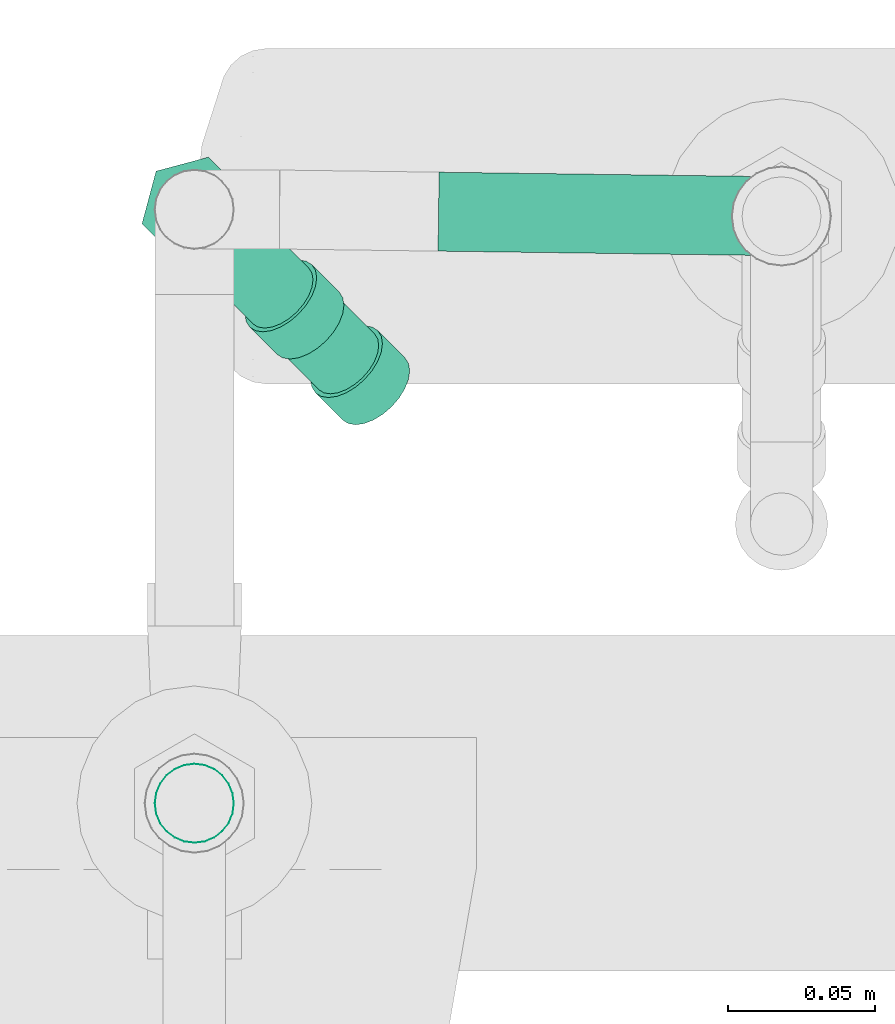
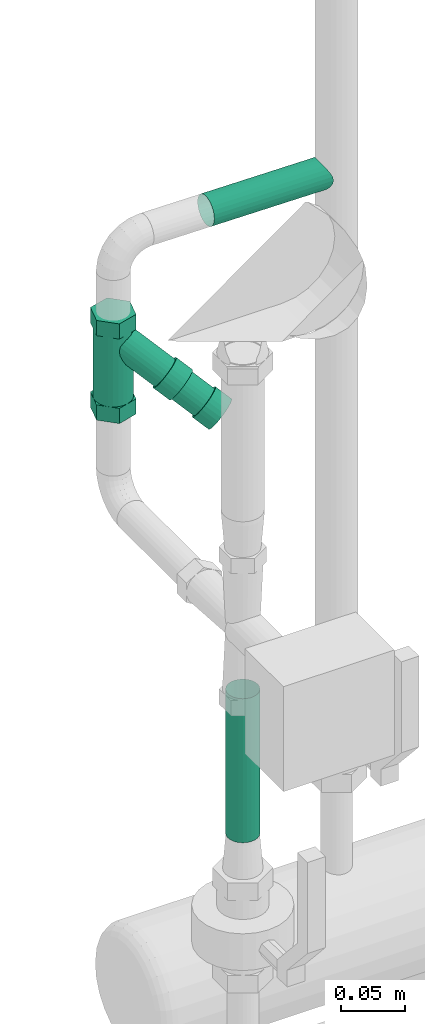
# One storey, part 82 of 374: 2 flow segments, 1 flow treatment device.
"""IFC2X3 building model written with IfcOpenShell, lengths in metres."""

from ifc_helpers import new_model, si_unit, direction, origin, place, context, subcontext, project, spatial, open_shell, surface_model, source, transform, mapped, element, save


model = new_model("IFC2X3")

# Units and contexts
model_context = context("Model", 3, precision=1e-05, world=origin(), true_north=direction((-0.4480736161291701, 0.8939966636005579)))
body_context = subcontext(model_context, "Body", "Model", "MODEL_VIEW")
ifc_project = project(units=[si_unit("LENGTHUNIT", "METRE"), si_unit("AREAUNIT", "SQUARE_METRE"), si_unit("VOLUMEUNIT", "CUBIC_METRE"), si_unit("PLANEANGLEUNIT", "RADIAN"), si_unit("THERMODYNAMICTEMPERATUREUNIT", "KELVIN"), si_unit("MASSUNIT", "GRAM", prefix="KILO"), si_unit("TIMEUNIT", "SECOND")], contexts=[model_context])

# Site, building, storey
site_placement = place(None, origin())
site = spatial("IfcSite", under=ifc_project, at=site_placement, Name="Site 1", CompositionType="ELEMENT")
building_placement = place(site_placement, origin())
building = spatial("IfcBuilding", under=site, at=building_placement, Name="Undefined", CompositionType="ELEMENT")
storey_placement = place(building_placement, origin())
storey = spatial("IfcBuildingStorey", under=building, at=storey_placement, Name="Rez de chauss\x8ee", CompositionType="ELEMENT", Elevation=0.0)

# Flow treatment device
shared_shape_1 = source(origin(), body_context, "Body", "SurfaceModel", [
    surface_model("IfcFaceBasedSurfaceModel", [(0.0, 0.0035111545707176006, 0.0), (0.0, 0.0, 0.0), (0.02585578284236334, 7.105427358e-15, 0.0), (0.024975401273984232, 0.003511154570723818, -3.552713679e-15), (0.0, -0.003391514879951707, -0.0009087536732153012), (0.028436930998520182, -0.003391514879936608, -0.0009087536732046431), (0.0, -0.006432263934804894, -0.0026643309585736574), (0.03254294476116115, -0.006432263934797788, -0.0026643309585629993), (0.0, -0.00891502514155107, -0.005147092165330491), (0.03789400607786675, -0.008915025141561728, -0.005147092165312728), (0.0, -0.010670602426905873, -0.008187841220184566), (0.04412544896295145, -0.010670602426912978, -0.008187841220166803), (0.0, -0.011579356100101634, -0.01157935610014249), (0.050812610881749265, -0.011579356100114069, -0.011579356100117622), (0.0, -0.011579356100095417, -0.015090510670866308), (0.04900045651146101, -0.011579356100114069, -0.015090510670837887), (0.0, -0.010670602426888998, -0.018482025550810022), (0.04731179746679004, -0.010670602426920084, -0.018482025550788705), (0.0, -0.008915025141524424, -0.021522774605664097), (0.04586171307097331, -0.008915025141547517, -0.021522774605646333), (0.0, -0.006432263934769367, -0.02400553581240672), (0.04474902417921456, -0.006432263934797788, -0.024005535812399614), (0.0, -0.0033915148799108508, -0.025761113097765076), (0.04404955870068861, -0.003391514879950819, -0.025761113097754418), (0.0, 4.2632564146e-14, -0.026669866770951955), (0.04381098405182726, 7.105427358e-15, -0.02666986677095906), (0.0, 0.0035111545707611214, -0.026669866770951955), (0.04404955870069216, 0.0035111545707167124, -0.026669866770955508), (0.0, 0.006902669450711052, -0.02576111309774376), (0.04474902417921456, 0.006902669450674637, -0.025761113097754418), (0.0, 0.00994341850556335, -0.024005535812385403), (0.04586171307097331, 0.009943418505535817, -0.02400553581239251), (0.0, 0.012426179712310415, -0.02152277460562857), (0.04731179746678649, 0.012426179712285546, -0.021522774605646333), (0.0, 0.014181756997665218, -0.018482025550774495), (0.04900045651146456, 0.014181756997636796, -0.018482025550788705), (0.0, 0.015090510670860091, -0.01509051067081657), (0.050812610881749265, 0.015090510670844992, -0.015090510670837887), (0.0, 0.015090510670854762, -0.011579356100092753), (0.044125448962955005, 0.015090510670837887, -0.011579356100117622), (0.0, 0.014181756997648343, -0.00818784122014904), (0.037894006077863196, 0.014181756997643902, -0.008187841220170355), (0.0, 0.012426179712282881, -0.005147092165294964), (0.03254294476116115, 0.012426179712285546, -0.005147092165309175), (0.0, 0.009943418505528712, -0.002664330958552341), (0.028436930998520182, 0.009943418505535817, -0.0026643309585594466), (0.0, 0.006902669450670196, -0.0009087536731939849), (0.025855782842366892, 0.006902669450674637, -0.0009087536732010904), (0.07112295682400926, -0.015791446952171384, -0.02403705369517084), (0.05598895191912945, -0.01717462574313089, -0.034543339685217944), (0.047672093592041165, -0.015624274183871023, -0.022767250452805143), (0.06280609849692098, -0.014241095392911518, -0.01226096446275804), (0.07868995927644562, 0.000763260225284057, -0.020872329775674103), (0.07037310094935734, 0.002313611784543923, -0.00909624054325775), (0.07112295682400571, 0.0159347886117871, -0.028213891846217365), (0.06280609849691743, 0.017485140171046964, -0.01643780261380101), (0.055988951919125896, 0.014551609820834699, -0.03872017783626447), (0.04767209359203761, 0.016101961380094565, -0.026944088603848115), (0.048421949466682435, -0.002003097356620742, -0.04188490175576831), (0.04010509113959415, -0.00045274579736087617, -0.030108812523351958), (0.05523909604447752, 0.016793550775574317, -0.021690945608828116), (0.05184690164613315, 0.01594299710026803, -0.023974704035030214), (0.013990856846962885, 0.0229997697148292, 0.029626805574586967), (0.017383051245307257, 0.023850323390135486, 0.031910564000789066), (0.048685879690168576, 0.014069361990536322, -0.025960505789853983), (0.010829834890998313, 0.02112613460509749, 0.0276410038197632), (0.04597144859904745, 0.011300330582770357, -0.02751302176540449), (0.008115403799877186, 0.018357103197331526, 0.026088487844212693), (0.04388859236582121, 0.007824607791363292, -0.028526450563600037), (0.006032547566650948, 0.01488138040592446, 0.025075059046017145), (0.042579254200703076, 0.0038790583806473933, -0.028931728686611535), (0.004723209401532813, 0.010935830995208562, 0.024669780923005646), (0.04213266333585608, -0.0002674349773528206, -0.028701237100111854), (0.004276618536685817, 0.006789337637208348, 0.024900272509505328), (0.04257925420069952, -0.004332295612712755, -0.02785068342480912), (0.00472320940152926, 0.0027244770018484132, 0.025750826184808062), (0.04388859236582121, -0.008038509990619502, -0.026438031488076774), (0.006032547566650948, -0.0009817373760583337, 0.027163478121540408), (0.04597144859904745, -0.011133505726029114, -0.024559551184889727), (0.008115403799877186, -0.004076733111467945, 0.029041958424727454), (0.048685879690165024, -0.01340636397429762, -0.022343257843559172), (0.01082983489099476, -0.006349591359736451, 0.03125825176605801), (0.05184690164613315, -0.014702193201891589, -0.019940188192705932), (0.013990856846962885, -0.00764542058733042, 0.03366132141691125), (0.05523909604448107, -0.01493268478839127, -0.01751410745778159), (0.01738305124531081, -0.007875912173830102, 0.03608740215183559), (0.058631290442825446, -0.014082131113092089, -0.015230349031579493), (0.020775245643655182, -0.00702535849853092, 0.03837116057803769), (0.06179231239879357, -0.01220849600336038, -0.013244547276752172), (0.023936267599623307, -0.005151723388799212, 0.04035696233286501), (0.0645067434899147, -0.00943946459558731, -0.011692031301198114), (0.026650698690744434, -0.0023826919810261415, 0.04190947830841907), (0.06658959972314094, -0.005963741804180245, -0.010678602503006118), (0.028733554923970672, 0.0010930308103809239, 0.04292290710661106), (0.06789893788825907, -0.0020181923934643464, -0.010273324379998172), (0.030042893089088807, 0.005038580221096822, 0.04332818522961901), (0.06834552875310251, 0.0021283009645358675, -0.010503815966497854), (0.03048948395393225, 0.009185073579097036, 0.04309769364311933), (0.06789893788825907, 0.006193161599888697, -0.011354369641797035), (0.030042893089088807, 0.013249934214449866, 0.042247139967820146), (0.06658959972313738, 0.00989937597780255, -0.01276702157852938), (0.02873355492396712, 0.016956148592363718, 0.0408344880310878), (0.0645067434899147, 0.012994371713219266, -0.014645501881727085), (0.026650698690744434, 0.020051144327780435, 0.038956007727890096), (0.06179231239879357, 0.015267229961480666, -0.016861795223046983), (0.023936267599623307, 0.022324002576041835, 0.0367397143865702), (0.058631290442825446, 0.01656305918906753, -0.019264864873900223), (0.020775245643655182, 0.0236198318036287, 0.03433664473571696), (0.024950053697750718, -0.007184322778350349, 0.04134054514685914), (0.009816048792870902, -0.008567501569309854, 0.03083425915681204), (0.0014991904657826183, -0.007017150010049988, 0.04261034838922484), (0.016633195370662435, -0.005633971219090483, 0.05311663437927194), (0.032517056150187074, 0.009370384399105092, 0.04450526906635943), (0.02420019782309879, 0.010920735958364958, 0.05628135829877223), (0.024950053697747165, 0.024541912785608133, 0.03716370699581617), (0.016633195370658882, 0.026092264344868, 0.04893979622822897), (0.009816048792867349, 0.023158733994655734, 0.026657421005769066), (0.0014991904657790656, 0.0247090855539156, 0.03843351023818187), (0.002249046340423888, 0.0066040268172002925, 0.023492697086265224), (-0.006067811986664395, 0.008154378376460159, 0.035268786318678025), (0.0, 0.016627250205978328, -0.015292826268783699), (3.552713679e-15, 0.015613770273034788, -0.01907518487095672), (-0.015999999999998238, 0.015613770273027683, -0.01907518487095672), (-0.01600000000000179, 0.016627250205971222, -0.015292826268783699), (3.552713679e-15, 0.01365587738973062, -0.022466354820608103), (-0.015999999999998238, 0.013655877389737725, -0.022466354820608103), (0.0, 0.010886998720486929, -0.02523523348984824), (-0.01600000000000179, 0.01088699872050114, -0.02523523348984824), (0.0, 0.007495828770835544, -0.027193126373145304), (-0.015999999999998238, 0.00749582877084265, -0.027193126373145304), (3.552713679e-15, 0.003713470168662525, -0.028206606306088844), (-0.015999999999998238, 0.0037134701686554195, -0.028206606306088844), (0.0, -0.00020231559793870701, -0.028206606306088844), (-0.015999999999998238, -0.00020231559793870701, -0.02820660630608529), (3.552713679e-15, -0.003984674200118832, -0.027193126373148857), (-0.016000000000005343, -0.003984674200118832, -0.027193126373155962), (0.0, -0.0073758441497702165, -0.02523523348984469), (-0.01600000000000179, -0.007375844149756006, -0.02523523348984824), (0.0, -0.010144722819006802, -0.022466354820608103), (-0.01600000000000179, -0.010144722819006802, -0.022466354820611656), (0.0, -0.012102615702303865, -0.019075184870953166), (-0.015999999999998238, -0.01210261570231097, -0.019075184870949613), (-3.552713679e-15, -0.013116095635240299, -0.015292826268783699), (-0.01600000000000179, -0.013116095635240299, -0.015292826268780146), (3.552713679e-15, -0.013116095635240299, -0.011377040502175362), (-0.015999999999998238, -0.013116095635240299, -0.011377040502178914), (-3.552713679e-15, -0.01210261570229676, -0.007594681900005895), (-0.01600000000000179, -0.012102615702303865, -0.007594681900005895), (3.552713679e-15, -0.010144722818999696, -0.004203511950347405), (-0.01600000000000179, -0.010144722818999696, -0.004203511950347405), (3.552713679e-15, -0.007375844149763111, -0.0014346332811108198), (-0.01600000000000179, -0.007375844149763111, -0.0014346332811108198), (-3.552713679e-15, -0.003984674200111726, 0.0005232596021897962), (-0.01600000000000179, -0.003984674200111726, 0.0005232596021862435), (-3.552713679e-15, -0.0002023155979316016, 0.0015367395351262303), (-0.016000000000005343, -0.0002023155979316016, 0.0015367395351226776), (0.0, 0.0037134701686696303, 0.001536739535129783), (-0.01600000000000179, 0.003713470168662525, 0.001536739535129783), (-3.552713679e-15, 0.00749582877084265, 0.0005232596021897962), (-0.01600000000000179, 0.00749582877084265, 0.0005232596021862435), (0.0, 0.01088699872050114, -0.0014346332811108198), (-0.015999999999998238, 0.010886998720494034, -0.0014346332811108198), (0.0, 0.013655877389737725, -0.004203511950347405), (-0.01600000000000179, 0.013655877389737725, -0.004203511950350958), (-3.552713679e-15, 0.015613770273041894, -0.0075946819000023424), (-0.01600000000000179, 0.015613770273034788, -0.007594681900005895), (0.0, 0.016627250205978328, -0.011377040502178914), (-0.01600000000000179, 0.016627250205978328, -0.011377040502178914), (3.552713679e-15, 0.0017555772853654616, -0.01333493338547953), (-0.015999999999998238, 0.0017555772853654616, -0.01333493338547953), (-0.01600000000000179, 0.015090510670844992, -0.01509051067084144), (-0.01600000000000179, 0.014181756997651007, -0.018482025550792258), (-0.03865786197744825, 0.014181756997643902, -0.018482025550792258), (-0.03865786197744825, 0.015090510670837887, -0.01509051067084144), (-0.015999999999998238, 0.012426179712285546, -0.021522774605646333), (-0.038657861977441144, 0.012426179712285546, -0.021522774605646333), (-0.015999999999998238, 0.009943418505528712, -0.02400553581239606), (-0.038657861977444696, 0.009943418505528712, -0.02400553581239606), (-0.01600000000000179, 0.006902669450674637, -0.02576111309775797), (-0.03865786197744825, 0.006902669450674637, -0.025761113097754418), (-0.015999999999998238, 0.003511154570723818, -0.026669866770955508), (-0.038657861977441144, 0.0035111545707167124, -0.02666986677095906), (-0.01600000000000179, 0.0, -0.02666986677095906), (-0.038657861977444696, 7.105427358e-15, -0.026669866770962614), (-0.016000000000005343, -0.0033915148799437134, -0.02576111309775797), (-0.03865786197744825, -0.003391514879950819, -0.02576111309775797), (-0.01600000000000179, -0.006432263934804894, -0.02400553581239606), (-0.03865786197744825, -0.006432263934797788, -0.024005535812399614), (-0.016000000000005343, -0.008915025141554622, -0.021522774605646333), (-0.03865786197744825, -0.008915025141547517, -0.021522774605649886), (-0.015999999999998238, -0.010670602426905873, -0.018482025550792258), (-0.03865786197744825, -0.010670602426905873, -0.018482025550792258), (-0.015999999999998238, -0.011579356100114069, -0.015090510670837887), (-0.03865786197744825, -0.011579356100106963, -0.01509051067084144), (-0.015999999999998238, -0.011579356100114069, -0.011579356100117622), (-0.038657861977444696, -0.011579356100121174, -0.011579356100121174), (-0.01600000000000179, -0.010670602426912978, -0.008187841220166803), (-0.038657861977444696, -0.010670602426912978, -0.008187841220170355), (-0.01600000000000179, -0.008915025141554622, -0.0051470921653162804), (-0.0386578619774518, -0.008915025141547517, -0.0051470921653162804), (-0.01600000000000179, -0.006432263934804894, -0.0026643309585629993), (-0.038657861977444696, -0.006432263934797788, -0.0026643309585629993), (-0.015999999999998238, -0.003391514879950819, -0.0009087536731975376), (-0.038657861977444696, -0.0033915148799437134, -0.0009087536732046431), (-0.015999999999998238, 0.0, 0.0), (-0.03865786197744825, 7.105427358e-15, -3.552713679e-15), (-0.015999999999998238, 0.003511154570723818, 0.0), (-0.03865786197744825, 0.0035111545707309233, -7.105427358e-15), (-0.01600000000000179, 0.006902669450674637, -0.0009087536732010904), (-0.038657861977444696, 0.006902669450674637, -0.0009087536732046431), (-0.01600000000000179, 0.009943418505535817, -0.0026643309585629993), (-0.038657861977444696, 0.009943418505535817, -0.0026643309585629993), (-0.01600000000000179, 0.012426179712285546, -0.0051470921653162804), (-0.038657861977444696, 0.012426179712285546, -0.005147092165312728), (-0.015999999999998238, 0.014181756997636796, -0.008187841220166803), (-0.038657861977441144, 0.014181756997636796, -0.008187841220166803), (-0.01600000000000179, 0.015090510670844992, -0.011579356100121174), (-0.038657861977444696, 0.015090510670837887, -0.011579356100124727), (-0.03865786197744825, 0.016627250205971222, -0.015292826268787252), (-0.03865786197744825, 0.015613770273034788, -0.01907518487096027), (-0.054657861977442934, 0.015613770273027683, -0.01907518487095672), (-0.05465786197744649, 0.016627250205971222, -0.015292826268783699), (-0.03865786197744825, 0.01365587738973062, -0.022466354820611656), (-0.054657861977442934, 0.01365587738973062, -0.022466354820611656), (-0.038657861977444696, 0.010886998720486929, -0.02523523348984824), (-0.05465786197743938, 0.010886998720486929, -0.02523523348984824), (-0.03865786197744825, 0.007495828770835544, -0.02719312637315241), (-0.054657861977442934, 0.007495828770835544, -0.027193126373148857), (-0.03865786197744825, 0.003713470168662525, -0.02820660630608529), (-0.05465786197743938, 0.003713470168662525, -0.02820660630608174), (-0.03865786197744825, -0.00020231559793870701, -0.02820660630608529), (-0.054657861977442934, -0.00020231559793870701, -0.02820660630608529), (-0.0386578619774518, -0.003984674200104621, -0.02719312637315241), (-0.054657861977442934, -0.003984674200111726, -0.027193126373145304), (-0.038657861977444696, -0.0073758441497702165, -0.025235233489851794), (-0.05465786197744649, -0.0073758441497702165, -0.02523523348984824), (-0.038657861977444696, -0.010144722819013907, -0.022466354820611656), (-0.054657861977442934, -0.010144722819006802, -0.022466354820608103), (-0.03865786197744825, -0.01210261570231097, -0.019075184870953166), (-0.054657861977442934, -0.01210261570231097, -0.019075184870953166), (-0.03865786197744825, -0.013116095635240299, -0.015292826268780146), (-0.054657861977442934, -0.013116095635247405, -0.015292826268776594), (-0.03865786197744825, -0.013116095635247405, -0.011377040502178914), (-0.054657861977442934, -0.01311609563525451, -0.011377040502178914), (-0.03865786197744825, -0.012102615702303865, -0.007594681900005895), (-0.054657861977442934, -0.012102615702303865, -0.0075946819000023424), (-0.03865786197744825, -0.010144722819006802, -0.004203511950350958), (-0.05465786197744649, -0.010144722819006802, -0.004203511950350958), (-0.03865786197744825, -0.007375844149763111, -0.0014346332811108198), (-0.054657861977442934, -0.0073758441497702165, -0.0014346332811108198), (-0.038657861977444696, -0.003984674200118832, 0.0005232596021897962), (-0.05465786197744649, -0.003984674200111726, 0.0005232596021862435), (-0.03865786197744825, -0.0002023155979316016, 0.0015367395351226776), (-0.05465786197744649, -0.00020231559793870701, 0.0015367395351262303), (-0.038657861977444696, 0.003713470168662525, 0.0015367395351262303), (-0.054657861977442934, 0.003713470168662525, 0.001536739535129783), (-0.038657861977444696, 0.00749582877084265, 0.0005232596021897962), (-0.054657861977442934, 0.007495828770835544, 0.0005232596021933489), (-0.038657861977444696, 0.010886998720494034, -0.0014346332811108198), (-0.054657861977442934, 0.010886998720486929, -0.0014346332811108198), (-0.038657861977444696, 0.01365587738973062, -0.004203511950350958), (-0.054657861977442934, 0.01365587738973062, -0.004203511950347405), (-0.03865786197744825, 0.015613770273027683, -0.007594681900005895), (-0.05465786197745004, 0.015613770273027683, -0.007594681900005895), (-0.038657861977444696, 0.016627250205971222, -0.011377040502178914), (-0.054657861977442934, 0.016627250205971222, -0.011377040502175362), (-0.03865786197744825, 0.0017555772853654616, -0.013334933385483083), (-0.05465786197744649, 0.0017555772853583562, -0.013334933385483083)], [open_shell([[[0, 1, 2, 3]], [[1, 4, 5, 2]], [[4, 6, 7, 5]], [[6, 8, 9, 7]], [[8, 10, 11, 9]], [[10, 12, 13, 11]], [[12, 14, 15, 13]], [[14, 16, 17, 15]], [[16, 18, 19, 17]], [[18, 20, 21, 19]], [[20, 22, 23, 21]], [[22, 24, 25, 23]], [[24, 26, 27, 25]], [[26, 28, 29, 27]], [[28, 30, 31, 29]], [[30, 32, 33, 31]], [[32, 34, 35, 33]], [[34, 36, 37, 35]], [[36, 38, 39, 37]], [[38, 40, 41, 39]], [[40, 42, 43, 41]], [[42, 44, 45, 43]], [[44, 46, 47, 45]], [[46, 0, 3, 47]], [[48, 49, 50, 51]], [[52, 48, 51, 53]], [[54, 52, 53, 55]], [[56, 54, 55, 57]], [[58, 56, 57, 59]], [[49, 58, 59, 50]], [[49, 48, 52]], [[49, 52, 54]], [[49, 54, 56]], [[49, 56, 58]], [[50, 53, 51]], [[50, 55, 53]], [[50, 57, 55]], [[50, 59, 57]], [[60, 61, 62, 63]], [[61, 64, 65, 62]], [[64, 66, 67, 65]], [[66, 68, 69, 67]], [[68, 70, 71, 69]], [[70, 72, 73, 71]], [[72, 74, 75, 73]], [[74, 76, 77, 75]], [[76, 78, 79, 77]], [[78, 80, 81, 79]], [[80, 82, 83, 81]], [[82, 84, 85, 83]], [[84, 86, 87, 85]], [[86, 88, 89, 87]], [[88, 90, 91, 89]], [[90, 92, 93, 91]], [[92, 94, 95, 93]], [[94, 96, 97, 95]], [[96, 98, 99, 97]], [[98, 100, 101, 99]], [[100, 102, 103, 101]], [[102, 104, 105, 103]], [[104, 106, 107, 105]], [[106, 60, 63, 107]], [[108, 109, 110, 111]], [[112, 108, 111, 113]], [[114, 112, 113, 115]], [[116, 114, 115, 117]], [[118, 116, 117, 119]], [[109, 118, 119, 110]], [[109, 108, 112]], [[109, 112, 114]], [[109, 114, 116]], [[109, 116, 118]], [[110, 113, 111]], [[110, 115, 113]], [[110, 117, 115]], [[110, 119, 117]], [[120, 121, 122, 123]], [[121, 124, 125, 122]], [[124, 126, 127, 125]], [[126, 128, 129, 127]], [[128, 130, 131, 129]], [[130, 132, 133, 131]], [[132, 134, 135, 133]], [[134, 136, 137, 135]], [[136, 138, 139, 137]], [[138, 140, 141, 139]], [[140, 142, 143, 141]], [[142, 144, 145, 143]], [[144, 146, 147, 145]], [[146, 148, 149, 147]], [[148, 150, 151, 149]], [[150, 152, 153, 151]], [[152, 154, 155, 153]], [[154, 156, 157, 155]], [[156, 158, 159, 157]], [[158, 160, 161, 159]], [[160, 162, 163, 161]], [[162, 164, 165, 163]], [[164, 166, 167, 165]], [[166, 120, 123, 167]], [[168, 121, 120]], [[168, 124, 121]], [[168, 126, 124]], [[168, 128, 126]], [[168, 130, 128]], [[168, 132, 130]], [[168, 134, 132]], [[168, 136, 134]], [[168, 138, 136]], [[168, 140, 138]], [[168, 142, 140]], [[168, 144, 142]], [[168, 146, 144]], [[168, 148, 146]], [[168, 150, 148]], [[168, 152, 150]], [[168, 154, 152]], [[168, 156, 154]], [[168, 158, 156]], [[168, 160, 158]], [[168, 162, 160]], [[168, 164, 162]], [[168, 166, 164]], [[168, 120, 166]], [[169, 167, 123]], [[169, 165, 167]], [[169, 163, 165]], [[169, 161, 163]], [[169, 159, 161]], [[169, 157, 159]], [[169, 155, 157]], [[169, 153, 155]], [[169, 151, 153]], [[169, 149, 151]], [[169, 147, 149]], [[169, 145, 147]], [[169, 143, 145]], [[169, 141, 143]], [[169, 139, 141]], [[169, 137, 139]], [[169, 135, 137]], [[169, 133, 135]], [[169, 131, 133]], [[169, 129, 131]], [[169, 127, 129]], [[169, 125, 127]], [[169, 122, 125]], [[169, 123, 122]], [[170, 171, 172, 173]], [[171, 174, 175, 172]], [[174, 176, 177, 175]], [[176, 178, 179, 177]], [[178, 180, 181, 179]], [[180, 182, 183, 181]], [[182, 184, 185, 183]], [[184, 186, 187, 185]], [[186, 188, 189, 187]], [[188, 190, 191, 189]], [[190, 192, 193, 191]], [[192, 194, 195, 193]], [[194, 196, 197, 195]], [[196, 198, 199, 197]], [[198, 200, 201, 199]], [[200, 202, 203, 201]], [[202, 204, 205, 203]], [[204, 206, 207, 205]], [[206, 208, 209, 207]], [[208, 210, 211, 209]], [[210, 212, 213, 211]], [[212, 214, 215, 213]], [[214, 216, 217, 215]], [[216, 170, 173, 217]], [[218, 219, 220, 221]], [[219, 222, 223, 220]], [[222, 224, 225, 223]], [[224, 226, 227, 225]], [[226, 228, 229, 227]], [[228, 230, 231, 229]], [[230, 232, 233, 231]], [[232, 234, 235, 233]], [[234, 236, 237, 235]], [[236, 238, 239, 237]], [[238, 240, 241, 239]], [[240, 242, 243, 241]], [[242, 244, 245, 243]], [[244, 246, 247, 245]], [[246, 248, 249, 247]], [[248, 250, 251, 249]], [[250, 252, 253, 251]], [[252, 254, 255, 253]], [[254, 256, 257, 255]], [[256, 258, 259, 257]], [[258, 260, 261, 259]], [[260, 262, 263, 261]], [[262, 264, 265, 263]], [[264, 218, 221, 265]], [[266, 219, 218]], [[266, 222, 219]], [[266, 224, 222]], [[266, 226, 224]], [[266, 228, 226]], [[266, 230, 228]], [[266, 232, 230]], [[266, 234, 232]], [[266, 236, 234]], [[266, 238, 236]], [[266, 240, 238]], [[266, 242, 240]], [[266, 244, 242]], [[266, 246, 244]], [[266, 248, 246]], [[266, 250, 248]], [[266, 252, 250]], [[266, 254, 252]], [[266, 256, 254]], [[266, 258, 256]], [[266, 260, 258]], [[266, 262, 260]], [[266, 264, 262]], [[266, 218, 264]], [[267, 265, 221]], [[267, 263, 265]], [[267, 261, 263]], [[267, 259, 261]], [[267, 257, 259]], [[267, 255, 257]], [[267, 253, 255]], [[267, 251, 253]], [[267, 249, 251]], [[267, 247, 249]], [[267, 245, 247]], [[267, 243, 245]], [[267, 241, 243]], [[267, 239, 241]], [[267, 237, 239]], [[267, 235, 237]], [[267, 233, 235]], [[267, 231, 233]], [[267, 229, 231]], [[267, 227, 229]], [[267, 225, 227]], [[267, 223, 225]], [[267, 220, 223]], [[267, 221, 220]]])]),
])
flow_treatment_device_placement = place(storey_placement, origin())
element("IfcFlowTreatmentDevice", 1, at=flow_treatment_device_placement, inside=storey, Name="Filtre en Y", ObjectType="Filtre en Y", context=body_context, shape_type="MappedRepresentation", body=[
    mapped(shared_shape_1, transform((52.07926340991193, 10.89370147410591, 0.891552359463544), x_axis=(-0.5792279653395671, 0.5792279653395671, 0.5735764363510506), y_axis=(0.648118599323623, 0.7539961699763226, -0.10692079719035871), z_axis=(-0.49440595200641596, 0.30981404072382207, -0.8121440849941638))),
])

# Flow segments
shared_shape_2 = source(origin(), body_context, "Body", "SurfaceModel", [
    surface_model("IfcFaceBasedSurfaceModel", [(0.0, 0.0035111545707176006, 0.0), (0.0, 0.0, 0.0), (0.10036351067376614, 0.0, -3.88578059e-16), (0.10000000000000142, 0.003511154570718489, -1.66533454e-16), (0.0, -0.003391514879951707, -0.0009087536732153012), (0.10140018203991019, -0.003391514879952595, -0.0009087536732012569), (0.0, -0.006432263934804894, -0.0026643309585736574), (0.10294060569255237, -0.00643226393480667, -0.0026643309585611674), (0.0, -0.00891502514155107, -0.005147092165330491), (0.10467438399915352, -0.008915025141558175, -0.005147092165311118), (0.0, -0.010670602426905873, -0.008187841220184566), (0.10611975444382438, -0.010670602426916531, -0.00818784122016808), (0.0, -0.011579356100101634, -0.01157935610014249), (0.10670012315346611, -0.011579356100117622, -0.011579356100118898), (0.0, -0.011579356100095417, -0.015090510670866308), (0.10611975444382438, -0.011579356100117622, -0.015090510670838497), (0.0, -0.010670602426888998, -0.018482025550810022), (0.10467438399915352, -0.010670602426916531, -0.018482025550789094), (0.0, -0.008915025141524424, -0.021522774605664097), (0.10294060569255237, -0.008915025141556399, -0.021522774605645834), (0.0, -0.006432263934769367, -0.02400553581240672), (0.10140018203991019, -0.00643226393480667, -0.024005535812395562), (0.0, -0.0033915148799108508, -0.025761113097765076), (0.10036351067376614, -0.0033915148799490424, -0.02576111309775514), (0.0, 4.2632564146e-14, -0.026669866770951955), (0.10000000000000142, 1.776356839e-15, -0.026669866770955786), (0.0, 0.0035111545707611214, -0.026669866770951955), (0.10036351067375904, 0.0035111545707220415, -0.02666986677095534), (0.0, 0.006902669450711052, -0.02576111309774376), (0.10140018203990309, 0.00690266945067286, -0.025761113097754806), (0.0, 0.00994341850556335, -0.024005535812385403), (0.10294060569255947, 0.009943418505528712, -0.024005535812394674), (0.0, 0.012426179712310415, -0.02152277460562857), (0.10467438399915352, 0.01242617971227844, -0.021522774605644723), (0.0, 0.014181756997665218, -0.018482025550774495), (0.10611975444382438, 0.014181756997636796, -0.018482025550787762), (0.0, 0.015090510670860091, -0.01509051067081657), (0.106700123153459, 0.015090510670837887, -0.015090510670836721), (0.0, 0.015090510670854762, -0.011579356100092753), (0.10611975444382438, 0.015090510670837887, -0.011579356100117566), (0.0, 0.014181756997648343, -0.00818784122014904), (0.10467438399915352, 0.014181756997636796, -0.008187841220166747), (0.0, 0.012426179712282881, -0.005147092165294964), (0.10294060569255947, 0.01242617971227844, -0.005147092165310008), (0.0, 0.009943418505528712, -0.002664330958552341), (0.10140018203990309, 0.009943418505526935, -0.0026643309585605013), (0.0, 0.006902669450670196, -0.0009087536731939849), (0.10036351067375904, 0.006902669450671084, -0.0009087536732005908)], [open_shell([[[0, 1, 2, 3]], [[1, 4, 5, 2]], [[4, 6, 7, 5]], [[6, 8, 9, 7]], [[8, 10, 11, 9]], [[10, 12, 13, 11]], [[12, 14, 15, 13]], [[14, 16, 17, 15]], [[16, 18, 19, 17]], [[18, 20, 21, 19]], [[20, 22, 23, 21]], [[22, 24, 25, 23]], [[24, 26, 27, 25]], [[26, 28, 29, 27]], [[28, 30, 31, 29]], [[30, 32, 33, 31]], [[32, 34, 35, 33]], [[34, 36, 37, 35]], [[36, 38, 39, 37]], [[38, 40, 41, 39]], [[40, 42, 43, 41]], [[42, 44, 45, 43]], [[44, 46, 47, 45]], [[46, 0, 3, 47]]])]),
])
flow_segment_1_placement = place(storey_placement, origin())
element("IfcFlowSegment", 2, at=flow_segment_1_placement, inside=storey, Name="Piquage sur circulaire 90°", ObjectType="Piquage sur circulaire 90°", context=body_context, shape_type="MappedRepresentation", body=[
    mapped(shared_shape_2, transform((52.14067589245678, 10.91612015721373, 1.0338640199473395), x_axis=(0.9999104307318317, -0.013383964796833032, 0.0), y_axis=(0.013269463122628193, 0.9913560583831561, 0.1305261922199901), z_axis=(-0.001746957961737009, -0.13051450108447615, 0.9914448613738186))),
])
shared_shape_3 = source(origin(), body_context, "Body", "SurfaceModel", [
    surface_model("IfcFaceBasedSurfaceModel", [(0.0, 0.0035111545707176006, 0.0), (0.0, 0.0, 0.0), (0.13730125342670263, 0.0, 0.0), (0.13730125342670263, 0.0035111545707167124, 7.105427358e-15), (0.0, -0.003391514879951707, -0.0009087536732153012), (0.13730125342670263, -0.003391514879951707, -0.0009087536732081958), (0.0, -0.006432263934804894, -0.0026643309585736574), (0.13730125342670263, -0.006432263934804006, -0.002664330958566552), (0.0, -0.00891502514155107, -0.005147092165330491), (0.13730125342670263, -0.008915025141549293, -0.005147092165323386), (0.0, -0.010670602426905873, -0.008187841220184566), (0.13730125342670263, -0.010670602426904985, -0.00818784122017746), (0.0, -0.011579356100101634, -0.01157935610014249), (0.13730125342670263, -0.011579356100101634, -0.01157935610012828), (0.0, -0.011579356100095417, -0.015090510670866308), (0.13730125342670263, -0.011579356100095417, -0.015090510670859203), (0.0, -0.010670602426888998, -0.018482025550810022), (0.13730125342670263, -0.010670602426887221, -0.018482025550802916), (0.0, -0.008915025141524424, -0.021522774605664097), (0.13730125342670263, -0.008915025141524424, -0.02152277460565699), (0.0, -0.006432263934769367, -0.02400553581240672), (0.13730125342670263, -0.006432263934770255, -0.024005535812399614), (0.0, -0.0033915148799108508, -0.025761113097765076), (0.13730125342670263, -0.0033915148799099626, -0.02576111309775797), (0.0, 4.2632564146e-14, -0.026669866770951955), (0.13730125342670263, 4.1744385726e-14, -0.02666986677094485), (0.0, 0.0035111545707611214, -0.026669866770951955), (0.13730125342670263, 0.0035111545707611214, -0.02666986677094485), (0.0, 0.006902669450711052, -0.02576111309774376), (0.13730125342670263, 0.006902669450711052, -0.025761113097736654), (0.0, 0.00994341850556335, -0.024005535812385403), (0.13730125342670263, 0.009943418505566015, -0.024005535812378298), (0.0, 0.012426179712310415, -0.02152277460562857), (0.13730125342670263, 0.012426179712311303, -0.021522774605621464), (0.0, 0.014181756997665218, -0.018482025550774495), (0.13730125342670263, 0.01418175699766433, -0.01848202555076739), (0.0, 0.015090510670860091, -0.01509051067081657), (0.13730125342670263, 0.015090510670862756, -0.01509051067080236), (0.0, 0.015090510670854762, -0.011579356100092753), (0.13730125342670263, 0.015090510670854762, -0.011579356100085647), (0.0, 0.014181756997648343, -0.00818784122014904), (0.13730125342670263, 0.01418175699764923, -0.008187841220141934), (0.0, 0.012426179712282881, -0.005147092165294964), (0.13730125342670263, 0.012426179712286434, -0.005147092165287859), (0.0, 0.009943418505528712, -0.002664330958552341), (0.13730125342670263, 0.0099434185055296, -0.0026643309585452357), (0.0, 0.006902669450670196, -0.0009087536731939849), (0.13730125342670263, 0.006902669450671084, -0.0009087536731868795)], [open_shell([[[0, 1, 2, 3]], [[1, 4, 5, 2]], [[4, 6, 7, 5]], [[6, 8, 9, 7]], [[8, 10, 11, 9]], [[10, 12, 13, 11]], [[12, 14, 15, 13]], [[14, 16, 17, 15]], [[16, 18, 19, 17]], [[18, 20, 21, 19]], [[20, 22, 23, 21]], [[22, 24, 25, 23]], [[24, 26, 27, 25]], [[26, 28, 29, 27]], [[28, 30, 31, 29]], [[30, 32, 33, 31]], [[32, 34, 35, 33]], [[34, 36, 37, 35]], [[36, 38, 39, 37]], [[38, 40, 41, 39]], [[40, 42, 43, 41]], [[42, 44, 45, 43]], [[44, 46, 47, 45]], [[46, 0, 3, 47]]])]),
])
flow_segment_2_placement = place(storey_placement, origin())
element("IfcFlowSegment", 3, at=flow_segment_2_placement, inside=storey, Name="Tube acier d'après DIN 2448", ObjectType="Tube acier d'après DIN 2448", context=body_context, shape_type="MappedRepresentation", body=[
    mapped(shared_shape_3, transform((52.070553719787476, 10.721518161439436, 0.5785500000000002), x_axis=(0.0, 0.0, 1.0), y_axis=(0.13052619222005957, -0.9914448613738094, 0.0), z_axis=(0.9914448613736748, 0.13052619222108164, 0.0))),
])

save(model, "model.ifc")
